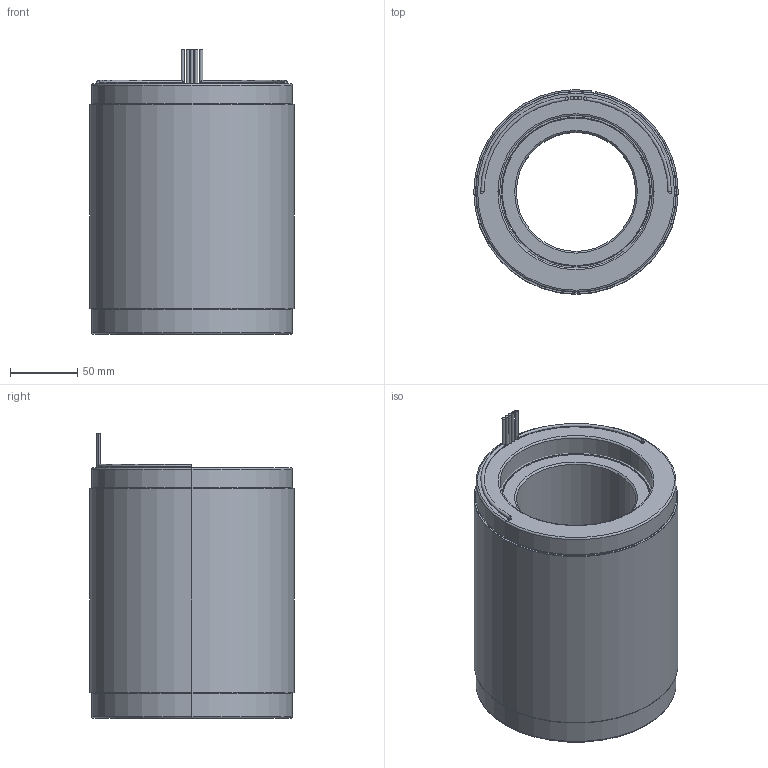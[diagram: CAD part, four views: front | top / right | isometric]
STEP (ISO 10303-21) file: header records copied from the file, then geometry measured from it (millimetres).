
FILE_DESCRIPTION (( 'STEP AP214' ), '1' );
FILE_NAME ('6100338-04.STEP', '2019-10-23T22:34:05', ( '' ), ( '' ), 'SwSTEP 2.0', 'SolidWorks 2016', '' );
FILE_SCHEMA (( 'AUTOMOTIVE_DESIGN' ));
Length unit declared in the file: millimetre
Products named in the file (12): 4250362-XX_4250362-04; 4600554-00; 4400094-00; 4450181-XX_4450181-04; 6100338-04; 4500541-XX_4500541-04; COMP4500541-XX(COIL)_COMP4500541-04(COIL); 3100410-00_INSTALLED; 4150168-XX_4150168-04
Assembly tree (12 placements, depth 4):
  6100338-04
    4250362-XX_4250362-04
      4150168-XX_4150168-04
    4500541-XX_4500541-04
      4450181-XX_4450181-04
        4450181-XX_4450181-04
        4400094-00
        4400094-00
        4600554-00
        4600554-00
      COMP4500541-XX(COIL)_COMP4500541-04(COIL)
      3100410-00_INSTALLED  x2
Bounding box: 152.4 x 152.39 x 212.09 mm (x, y, z)
Volume: 3180615.2 mm3; surface area: 482916.3 mm2
Topology: 20 solids, 20 shells, 128 faces, 246 edges, 160 vertices
Faces by surface type: cylinder 58, plane 54, torus 12, cone 4
Entity records: 3627 total; most frequent: DIRECTION 616, CARTESIAN_POINT 486, ORIENTED_EDGE 432, AXIS2_PLACEMENT_3D 270, EDGE_CURVE 216, VERTEX_POINT 140, CIRCLE 140, EDGE_LOOP 128
